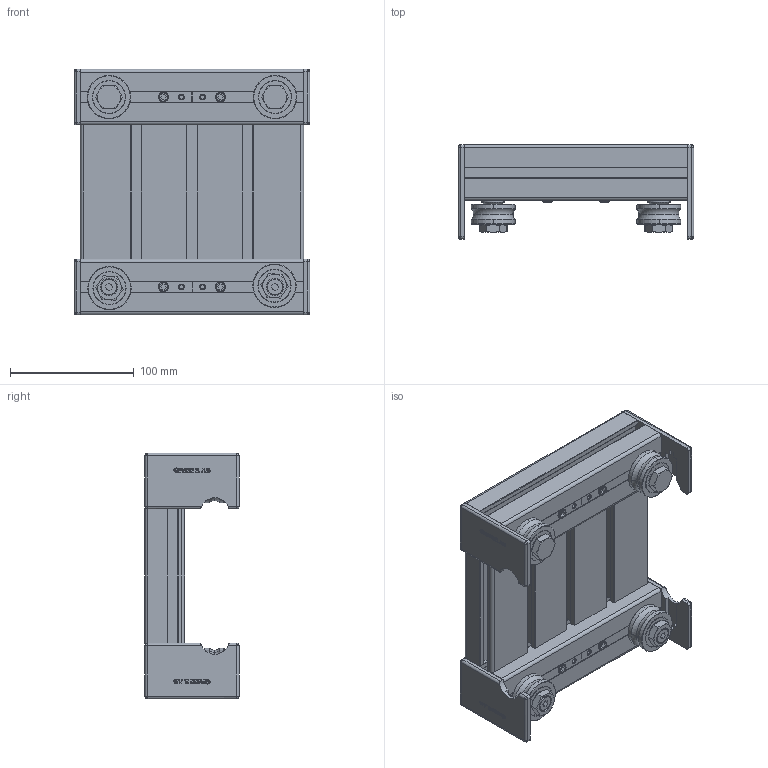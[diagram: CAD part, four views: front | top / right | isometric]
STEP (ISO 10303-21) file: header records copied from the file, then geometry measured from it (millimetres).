
FILE_DESCRIPTION (( 'STEP AP214' ), '1' );
FILE_NAME ('1.8134 Kelkka 90.STEP', '2026-03-26T11:06:48', ( '' ), ( '' ), 'SwSTEP 2.0', 'SolidWorks 2025', '' );
FILE_SCHEMA (( 'AUTOMOTIVE_DESIGN' ));
Length unit declared in the file: millimetre
Products named in the file (7): Kiinnityssarja 12; Väliprofiili_Default<As Machined>; Sivuprofiili_Default<As Machined>; 1.8134 Kelkka 90; Kiinnityssarja 12 säädettävä; 1.1044 Päätysuoja lineaarikelkalle 12 oikea; 1.1045 Päätysuoja lineaarikelkalle 12 vasen
Assembly tree (11 placements, depth 2):
  1.8134 Kelkka 90
    Sivuprofiili_Default<As Machined>  x2
    Väliprofiili_Default<As Machined>
    Kiinnityssarja 12  x2
    Kiinnityssarja 12 säädettävä  x2
    1.1044 Päätysuoja lineaarikelkalle 12 oikea  x2
    1.1045 Päätysuoja lineaarikelkalle 12 vasen  x2
Bounding box: 190 x 76 x 198.2 mm (x, y, z)
Volume: 822511.9 mm3; surface area: 417083 mm2
Topology: 81 solids, 81 shells, 2725 faces, 7343 edges, 4710 vertices
Faces by surface type: plane 1176, cylinder 767, bspline 370, cone 180, sphere 128, torus 104
Entity records: 69808 total; most frequent: CARTESIAN_POINT 18485, ORIENTED_EDGE 8366, DIRECTION 7848, EDGE_CURVE 4183, VERTEX_POINT 2738, AXIS2_PLACEMENT_3D 2717, LINE 2414, VECTOR 2414
